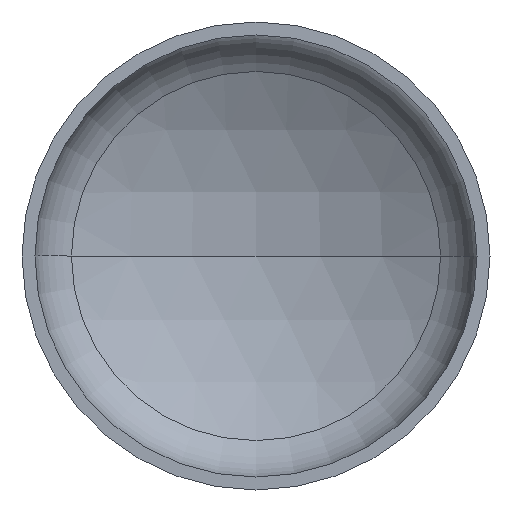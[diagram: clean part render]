
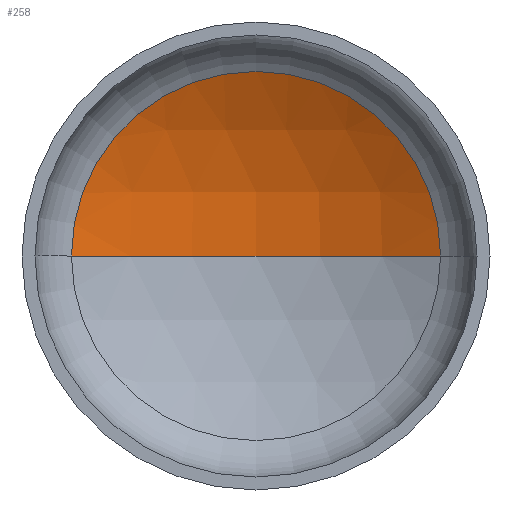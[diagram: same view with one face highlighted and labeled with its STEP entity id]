
A CAD part, front view. The second image highlights one B-rep face of the part: STEP entity #258.
In plain terms, the highlighted spherical face has radius 2080 mm.
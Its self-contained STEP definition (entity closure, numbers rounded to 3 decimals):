
#9 = AXIS2_PLACEMENT_3D ( 'NONE', #177, #335, #202 ) ;
#10 = CARTESIAN_POINT ( 'NONE',  ( 0., -1341.785, 0. ) ) ;
#11 = ORIENTED_EDGE ( 'NONE', *, *, #352, .T. ) ;
#15 = AXIS2_PLACEMENT_3D ( 'NONE', #267, #89, #286 ) ;
#21 = CIRCLE ( 'NONE', #15, 1025.143 ) ;
#26 = AXIS2_PLACEMENT_3D ( 'NONE', #156, #159, #95 ) ;
#27 = ORIENTED_EDGE ( 'NONE', *, *, #333, .F. ) ;
#31 = AXIS2_PLACEMENT_3D ( 'NONE', #10, #221, #197 ) ;
#45 = VERTEX_POINT ( 'NONE', #307 ) ;
#63 = ORIENTED_EDGE ( 'NONE', *, *, #357, .T. ) ;
#67 = VERTEX_POINT ( 'NONE', #341 ) ;
#89 = DIRECTION ( 'NONE',  ( 0., -1., 0. ) ) ;
#95 = DIRECTION ( 'NONE',  ( 1., 0., 0. ) ) ;
#99 = VERTEX_POINT ( 'NONE', #288 ) ;
#131 = EDGE_LOOP ( 'NONE', ( #27, #63, #11 ) ) ;
#156 = CARTESIAN_POINT ( 'NONE',  ( 0., -1341.785, 0. ) ) ;
#159 = DIRECTION ( 'NONE',  ( 0., 0., 1. ) ) ;
#177 = CARTESIAN_POINT ( 'NONE',  ( 0., -1341.785, 0. ) ) ;
#180 = CIRCLE ( 'NONE', #9, 2080. ) ;
#188 = CIRCLE ( 'NONE', #26, 2080. ) ;
#197 = DIRECTION ( 'NONE',  ( -1., 0., 0. ) ) ;
#202 = DIRECTION ( 'NONE',  ( -1., 0., 0. ) ) ;
#221 = DIRECTION ( 'NONE',  ( 0., 0., -1. ) ) ;
#258 = ADVANCED_FACE ( 'NONE', ( #319 ), #325, .F. ) ;
#267 = CARTESIAN_POINT ( 'NONE',  ( 0., 468.044, 0. ) ) ;
#286 = DIRECTION ( 'NONE',  ( 1., 0., 0. ) ) ;
#288 = CARTESIAN_POINT ( 'NONE',  ( 1025.143, 468.044, 0. ) ) ;
#307 = CARTESIAN_POINT ( 'NONE',  ( 0., 738.215, 0. ) ) ;
#319 = FACE_OUTER_BOUND ( 'NONE', #131, .T. ) ;
#325 = SPHERICAL_SURFACE ( 'NONE', #31, 2080. ) ;
#333 = EDGE_CURVE ( 'NONE', #45, #67, #188, .T. ) ;
#335 = DIRECTION ( 'NONE',  ( 0., 0., -1. ) ) ;
#341 = CARTESIAN_POINT ( 'NONE',  ( -1025.143, 468.044, 0. ) ) ;
#352 = EDGE_CURVE ( 'NONE', #99, #67, #21, .T. ) ;
#357 = EDGE_CURVE ( 'NONE', #45, #99, #180, .T. ) ;
